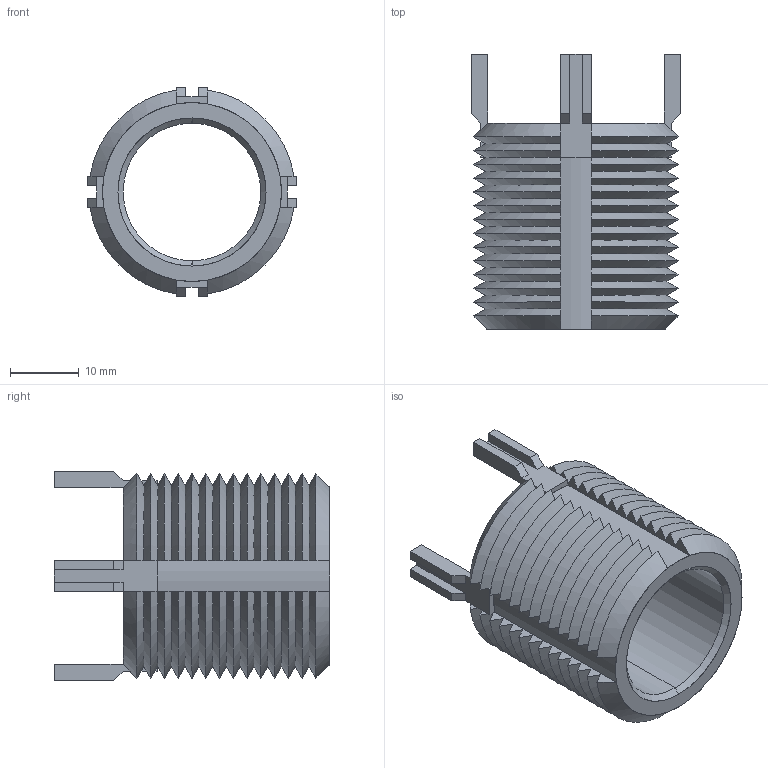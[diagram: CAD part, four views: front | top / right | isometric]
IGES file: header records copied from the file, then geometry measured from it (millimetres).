
Start section: SolidWorks IGES file using analytic representation for surfaces
Global section: file name: C:\Users\liam_\OneDrive\Documents\WORK\Work for WixRoyd\Job Files\J-00028 - Matt Davis CAD - 20191222\Wixroyd20191222\22002_v2\22002_v2_20200104_IGES\22002.W5731.igs; native system: SolidWorks 2017; preprocessor: SolidWorks 2017; author: liam_; date: 200104.213729; units: millimetre
Bounding box: 30.41 x 40 x 30.41 mm (x, y, z)
Surface area: 7828 mm2 (no closed solid volume)
Topology: 0 solids, 0 shells, 212 faces, 1248 edges, 1248 vertices
Faces by surface type: revolution 122, bspline 90
